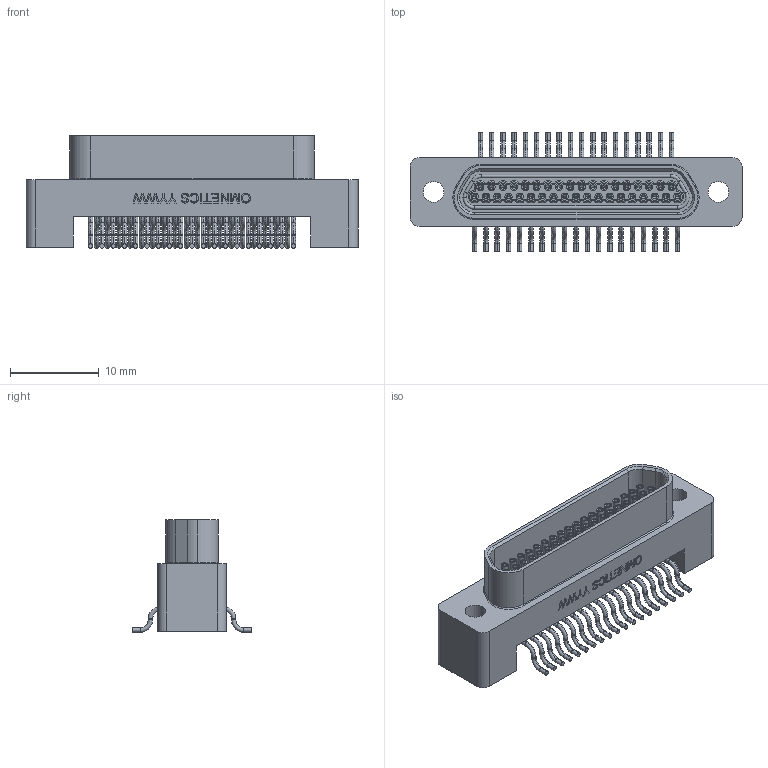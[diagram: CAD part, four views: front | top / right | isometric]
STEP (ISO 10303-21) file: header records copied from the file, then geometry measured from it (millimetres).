
FILE_DESCRIPTION (( 'STEP AP214' ), '1' );
FILE_NAME ('A99002-037 REV A.STEP', '2021-02-04T23:08:47', ( '' ), ( '' ), 'SwSTEP 2.0', 'SolidWorks 2019', '' );
FILE_SCHEMA (( 'AUTOMOTIVE_DESIGN' ));
Length unit declared in the file: inch
Products named in the file (1): A99002-037 REV A
Bounding box: 37.47 x 13.51 x 12.7 mm (x, y, z)
Volume: 1608.6 mm3; surface area: 3809.9 mm2
Topology: 1 solids, 78 shells, 1739 faces, 3830 edges, 2300 vertices
Faces by surface type: cylinder 812, plane 407, torus 383, cone 83, bspline 54
Entity records: 73643 total; most frequent: CARTESIAN_POINT 11662, DIRECTION 9100, ORIENTED_EDGE 7500, AXIS2_PLACEMENT_3D 3854, EDGE_CURVE 3750, VERTEX_POINT 2300, CIRCLE 2168, EDGE_LOOP 2026
